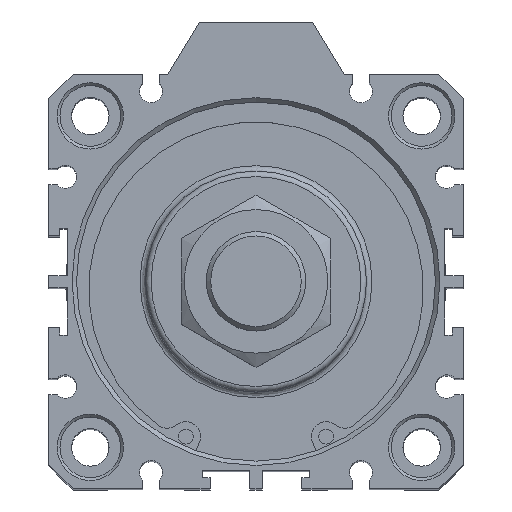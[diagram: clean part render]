
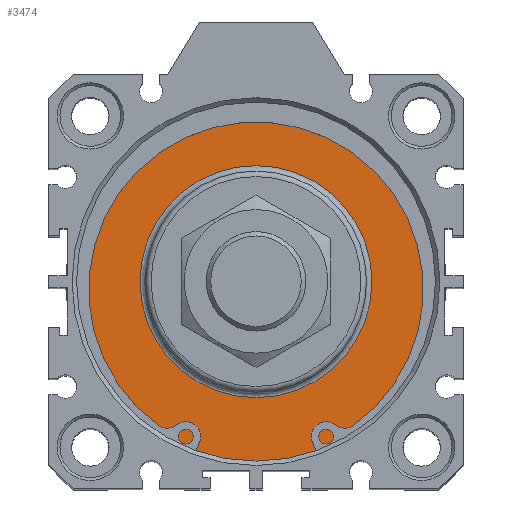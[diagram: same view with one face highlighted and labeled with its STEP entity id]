
A CAD part, top view. The second image highlights one B-rep face of the part: STEP entity #3474.
In plain terms, the highlighted planar face has unit normal (0, 0, 1).
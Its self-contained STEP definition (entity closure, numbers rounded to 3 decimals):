
#3423=CARTESIAN_POINT('',(2.99,22.555,127.3));
#3424=VERTEX_POINT('',#3423);
#3425=CARTESIAN_POINT('',(2.99,1.555,127.3));
#3426=DIRECTION('',(0.0,0.0,1.0));
#3427=DIRECTION('',(0.0,-1.0,0.0));
#3428=AXIS2_PLACEMENT_3D('',#3425,#3426,#3427);
#3429=CIRCLE('',#3428,21.);
#3430=EDGE_CURVE('',#3424,#3424,#3429,.T.);
#3455=CARTESIAN_POINT('',(2.99,27.805,127.3));
#3456=DIRECTION('',(0.0,0.0,1.0));
#3457=DIRECTION('',(1.0,0.0,0.0));
#3458=AXIS2_PLACEMENT_3D('',#3455,#3456,#3457);
#3459=PLANE('',#3458);
#3460=CARTESIAN_POINT('',(2.99,34.055,127.3));
#3461=VERTEX_POINT('',#3460);
#3462=CARTESIAN_POINT('',(2.99,1.555,127.3));
#3463=DIRECTION('',(0.0,0.0,-1.0));
#3464=DIRECTION('',(0.0,1.0,0.0));
#3465=AXIS2_PLACEMENT_3D('',#3462,#3463,#3464);
#3466=CIRCLE('',#3465,32.5);
#3467=EDGE_CURVE('',#3461,#3461,#3466,.T.);
#3468=ORIENTED_EDGE('',*,*,#3467,.F.);
#3469=EDGE_LOOP('',(#3468));
#3470=FACE_OUTER_BOUND('',#3469,.T.);
#3471=ORIENTED_EDGE('',*,*,#3430,.F.);
#3472=EDGE_LOOP('',(#3471));
#3473=FACE_BOUND('',#3472,.T.);
#3474=ADVANCED_FACE('',(#3470,#3473),#3459,.T.);
